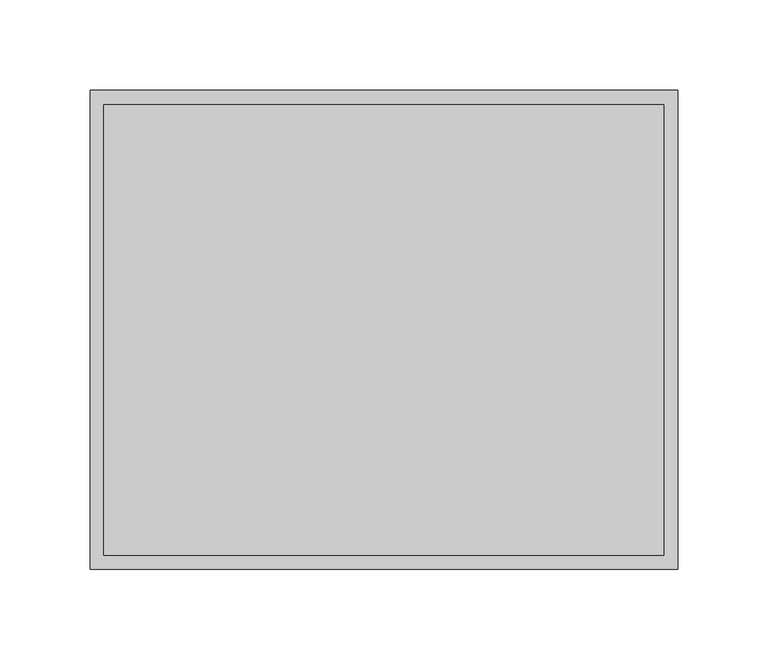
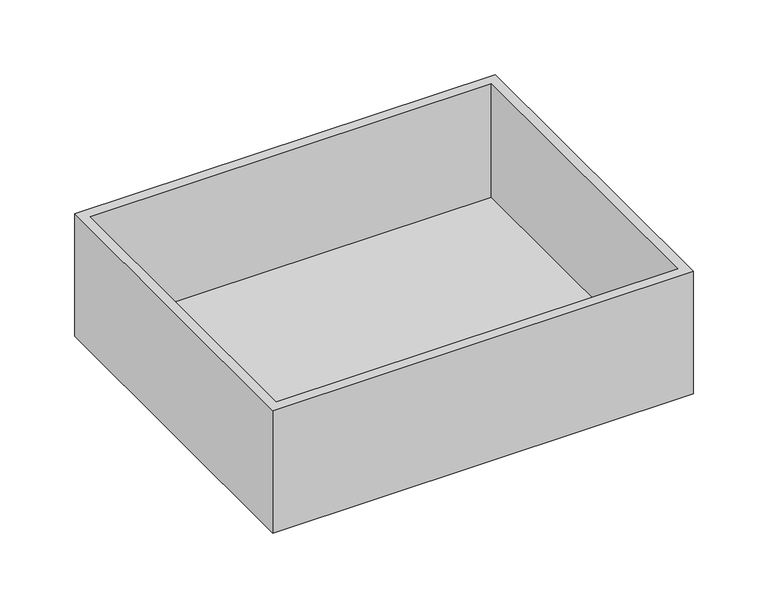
"""IFC4 building model written with IfcOpenShell, lengths in millimetres: proxy geometry, Modelos genéricos 123 : Modelos genéricos 29."""

from ifc_helpers import new_model, si_unit, origin, place, context, project, spatial, faceted_brep, source, transform, mapped, element, save


def generic_models_941c83be(model_context):
    return source(origin(), model_context, "Body", "Brep", [
        faceted_brep([(-17643.3916731, -6352.0417559, 1086.3966943), (-17643.3916731, -6617.0417559, 1086.3966943), (-17318.3916731, -6617.0417559, 1086.3966943), (-17318.3916731, -6352.0417559, 1086.3966943), (-17636.0488006, -6609.2469974, 1086.3966943), (-17636.0488006, -6359.9029176, 1086.3966943), (-17326.0488006, -6359.9029176, 1086.3966943), (-17326.0488006, -6609.2469974, 1086.3966943), (-17643.3916731, -6352.0417559, 986.3966943), (-17318.3916731, -6352.0417559, 986.3966943), (-17318.3916731, -6617.0417559, 986.3966943), (-17643.3916731, -6617.0417559, 986.3966943), (-17636.0488006, -6609.2469974, 993.8583576), (-17636.0488006, -6359.9029176, 993.8583576), (-17326.0488006, -6609.2469974, 993.8583576), (-17326.0488006, -6359.9029176, 993.8583576)], [[[0, 1, 2, 3], [4, 5, 6, 7]], [[8, 9, 10, 11]], [[1, 0, 8, 11]], [[2, 1, 11, 10]], [[3, 2, 10, 9]], [[0, 3, 9, 8]], [[12, 13, 5, 4]], [[14, 12, 4, 7]], [[15, 14, 7, 6]], [[13, 15, 6, 5]], [[13, 12, 14, 15]]]),
    ])


if __name__ == "__main__":
    model = new_model("IFC4")
    model_context = context("Model", 3, world=origin())
    ifc_project = project(units=[si_unit("LENGTHUNIT", "METRE", prefix="MILLI")], contexts=[model_context])
    site = spatial("IfcSite", under=ifc_project)
    building = spatial("IfcBuilding", under=site)
    placement = place(None, origin())
    generic_models_shape = generic_models_941c83be(model_context)
    element("IfcBuildingElementProxy", 1, Name="Modelos genéricos 123 : Modelos genéricos 29", ObjectType="Modelos genéricos 123 : Modelos genéricos 29", at=placement, inside=building, context=model_context, shape_type="MappedRepresentation", body=[
        mapped(generic_models_shape, transform((0.0, 0.0, 0.0), x_axis=(1.0, 0.0, 0.0), y_axis=(0.0, 1.0, 0.0), z_axis=(0.0, 0.0, 1.0))),
    ])
    save(model, "model.ifc")
